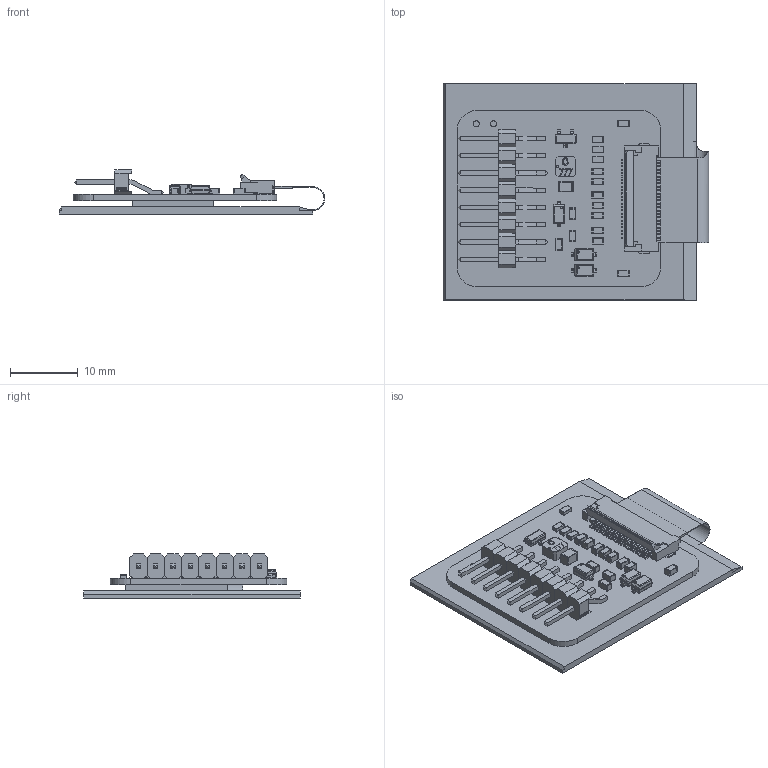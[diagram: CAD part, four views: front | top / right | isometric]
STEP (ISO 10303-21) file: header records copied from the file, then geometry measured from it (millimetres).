
FILE_DESCRIPTION (( 'STEP AP214' ), '1' );
FILE_NAME ('CFAP200200A3-E2-1.STEP', '2020-10-07T15:21:35', ( '' ), ( '' ), 'SwSTEP 2.0', 'SolidWorks 2020', '' );
FILE_SCHEMA (( 'AUTOMOTIVE_DESIGN' ));
Length unit declared in the file: millimetre
Products named in the file (4): CFAP200200A3-E2-1; CFAP200200A3-0154; cfa_10084; VHB_Tape_10099_Short
Assembly tree (3 placements, depth 2):
  CFAP200200A3-E2-1
    cfa_10084
    CFAP200200A3-0154
    VHB_Tape_10099_Short
Bounding box: 39.07 x 31.8 x 6.51 mm (x, y, z)
Volume: 1440.9 mm3; surface area: 6489.1 mm2
Topology: 5 solids, 108 shells, 4237 faces, 10648 edges, 6609 vertices
Faces by surface type: plane 2261, cylinder 1497, sphere 294, bspline 169, torus 16
Entity records: 138351 total; most frequent: CARTESIAN_POINT 39883, ORIENTED_EDGE 20974, DIRECTION 17191, EDGE_CURVE 10520, VERTEX_POINT 6609, AXIS2_PLACEMENT_3D 6019, VECTOR 5153, LINE 5153
